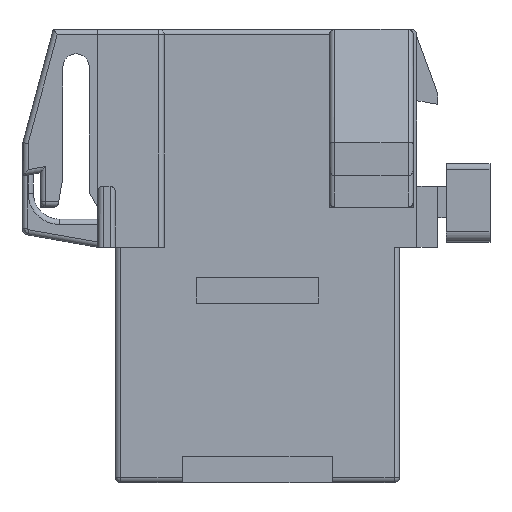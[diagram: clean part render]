
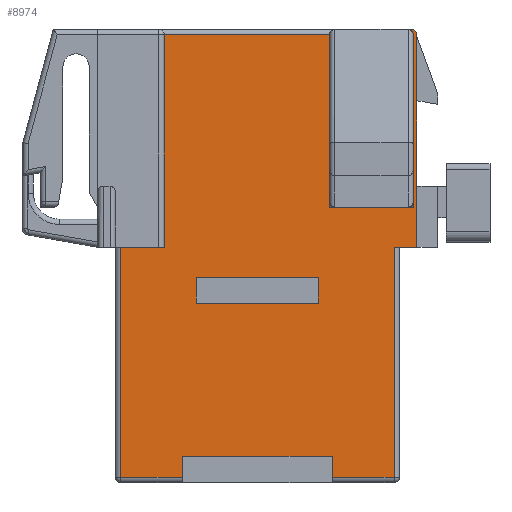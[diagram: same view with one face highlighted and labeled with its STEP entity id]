
A CAD part, front view. The second image highlights one B-rep face of the part: STEP entity #8974.
In plain terms, the highlighted planar face has unit normal (0, -1, 0).
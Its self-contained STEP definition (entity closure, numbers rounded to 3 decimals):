
#168=DIRECTION('',(-1.,0.,0.));
#169=VECTOR('',#168,0.2);
#170=CARTESIAN_POINT('',(8.85,-6.9,10.));
#171=LINE('',#170,#169);
#1286=DIRECTION('',(0.,0.,-1.));
#1287=VECTOR('',#1286,1.2);
#1288=CARTESIAN_POINT('',(4.3,-6.9,-14.5));
#1289=LINE('',#1288,#1287);
#1635=DIRECTION('',(1.,0.,0.));
#1636=VECTOR('',#1635,8.6);
#1637=CARTESIAN_POINT('',(-4.3,-6.9,-14.5));
#1638=LINE('',#1637,#1636);
#1639=DIRECTION('',(-1.,0.,0.));
#1640=VECTOR('',#1639,3.55);
#1641=CARTESIAN_POINT('',(-4.3,-6.9,-15.7));
#1642=LINE('',#1641,#1640);
#1643=DIRECTION('',(0.,0.,-1.));
#1644=VECTOR('',#1643,13.2);
#1645=CARTESIAN_POINT('',(-7.85,-6.9,-2.5));
#1646=LINE('',#1645,#1644);
#1647=DIRECTION('',(0.,0.,1.));
#1648=VECTOR('',#1647,12.2);
#1649=CARTESIAN_POINT('',(-5.35,-6.9,-2.5));
#1650=LINE('',#1649,#1648);
#1651=DIRECTION('',(1.,0.,0.));
#1652=VECTOR('',#1651,9.5);
#1653=CARTESIAN_POINT('',(-5.35,-6.9,9.7));
#1654=LINE('',#1653,#1652);
#1655=DIRECTION('',(0.,0.,-1.));
#1656=VECTOR('',#1655,9.9);
#1657=CARTESIAN_POINT('',(4.15,-6.9,9.7));
#1658=LINE('',#1657,#1656);
#1659=DIRECTION('',(-1.,0.,0.));
#1660=VECTOR('',#1659,4.8);
#1661=CARTESIAN_POINT('',(8.95,-6.9,-0.2));
#1662=LINE('',#1661,#1660);
#1663=DIRECTION('',(0.,0.,-1.));
#1664=VECTOR('',#1663,9.9);
#1665=CARTESIAN_POINT('',(8.95,-6.9,9.7));
#1666=LINE('',#1665,#1664);
#1667=CARTESIAN_POINT('',(8.85,-6.9,9.7));
#1668=DIRECTION('',(0.,1.,0.));
#1669=DIRECTION('',(0.,0.,1.));
#1670=AXIS2_PLACEMENT_3D('',#1667,#1668,#1669);
#1672=DIRECTION('',(0.,0.,1.));
#1673=VECTOR('',#1672,3.5);
#1674=CARTESIAN_POINT('',(9.15,-6.9,-2.5));
#1675=LINE('',#1674,#1673);
#1676=DIRECTION('',(0.,0.,-1.));
#1677=VECTOR('',#1676,13.2);
#1678=CARTESIAN_POINT('',(7.85,-6.9,-2.5));
#1679=LINE('',#1678,#1677);
#1680=DIRECTION('',(-1.,0.,0.));
#1681=VECTOR('',#1680,3.55);
#1682=CARTESIAN_POINT('',(7.85,-6.9,-15.7));
#1683=LINE('',#1682,#1681);
#1684=DIRECTION('',(-1.,0.,0.));
#1685=VECTOR('',#1684,7.);
#1686=CARTESIAN_POINT('',(3.5,-6.9,-5.7));
#1687=LINE('',#1686,#1685);
#1688=DIRECTION('',(0.,0.,-1.));
#1689=VECTOR('',#1688,1.45);
#1690=CARTESIAN_POINT('',(3.5,-6.9,-4.25));
#1691=LINE('',#1690,#1689);
#1692=DIRECTION('',(-1.,0.,0.));
#1693=VECTOR('',#1692,7.);
#1694=CARTESIAN_POINT('',(3.5,-6.9,-4.25));
#1695=LINE('',#1694,#1693);
#1696=DIRECTION('',(0.,0.,-1.));
#1697=VECTOR('',#1696,1.45);
#1698=CARTESIAN_POINT('',(-3.5,-6.9,-4.25));
#1699=LINE('',#1698,#1697);
#1700=DIRECTION('',(0.,0.,1.));
#1701=VECTOR('',#1700,1.2);
#1702=CARTESIAN_POINT('',(-4.3,-6.9,-15.7));
#1703=LINE('',#1702,#1701);
#2154=DIRECTION('',(-1.,0.,0.));
#2155=VECTOR('',#2154,2.5);
#2156=CARTESIAN_POINT('',(-5.35,-6.9,-2.5));
#2157=LINE('',#2156,#2155);
#2252=DIRECTION('',(1.,0.,0.));
#2253=VECTOR('',#2252,1.3);
#2254=CARTESIAN_POINT('',(7.85,-6.9,-2.5));
#2255=LINE('',#2254,#2253);
#3139=DIRECTION('',(0.,0.,1.));
#3140=VECTOR('',#3139,8.7);
#3141=CARTESIAN_POINT('',(9.15,-6.9,1.));
#3142=LINE('',#3141,#3140);
#3507=CARTESIAN_POINT('',(8.65,-6.9,9.7));
#3508=DIRECTION('',(0.,1.,0.));
#3509=DIRECTION('',(0.,0.,1.));
#3510=AXIS2_PLACEMENT_3D('',#3507,#3508,#3509);
#5698=CARTESIAN_POINT('',(8.95,-6.9,-0.2));
#5699=CARTESIAN_POINT('',(4.15,-6.9,-0.2));
#5700=VERTEX_POINT('',#5698);
#5701=VERTEX_POINT('',#5699);
#5762=CARTESIAN_POINT('',(9.15,-6.9,-2.5));
#5763=CARTESIAN_POINT('',(9.15,-6.9,1.));
#5764=VERTEX_POINT('',#5762);
#5765=VERTEX_POINT('',#5763);
#6290=CARTESIAN_POINT('',(8.95,-6.9,9.7));
#6292=VERTEX_POINT('',#6290);
#6294=CARTESIAN_POINT('',(8.65,-6.9,10.));
#6296=VERTEX_POINT('',#6294);
#6346=CARTESIAN_POINT('',(4.15,-6.9,9.7));
#6347=VERTEX_POINT('',#6346);
#6350=CARTESIAN_POINT('',(-5.35,-6.9,9.7));
#6351=VERTEX_POINT('',#6350);
#6358=CARTESIAN_POINT('',(8.85,-6.9,10.));
#6359=VERTEX_POINT('',#6358);
#6558=CARTESIAN_POINT('',(9.15,-6.9,9.7));
#6560=VERTEX_POINT('',#6558);
#6566=CARTESIAN_POINT('',(7.85,-6.9,-2.5));
#6567=CARTESIAN_POINT('',(7.85,-6.9,-15.7));
#6568=VERTEX_POINT('',#6566);
#6569=VERTEX_POINT('',#6567);
#6604=CARTESIAN_POINT('',(-7.85,-6.9,-2.5));
#6605=CARTESIAN_POINT('',(-7.85,-6.9,-15.7));
#6606=VERTEX_POINT('',#6604);
#6607=VERTEX_POINT('',#6605);
#6610=CARTESIAN_POINT('',(-5.35,-6.9,-2.5));
#6611=VERTEX_POINT('',#6610);
#6739=CARTESIAN_POINT('',(4.3,-6.9,-15.7));
#6741=VERTEX_POINT('',#6739);
#6743=CARTESIAN_POINT('',(-4.3,-6.9,-15.7));
#6745=VERTEX_POINT('',#6743);
#6778=CARTESIAN_POINT('',(-4.3,-6.9,-14.5));
#6779=CARTESIAN_POINT('',(4.3,-6.9,-14.5));
#6780=VERTEX_POINT('',#6778);
#6781=VERTEX_POINT('',#6779);
#6790=CARTESIAN_POINT('',(3.5,-6.9,-5.7));
#6791=CARTESIAN_POINT('',(-3.5,-6.9,-5.7));
#6792=VERTEX_POINT('',#6790);
#6793=VERTEX_POINT('',#6791);
#6794=CARTESIAN_POINT('',(-3.5,-6.9,-4.25));
#6795=VERTEX_POINT('',#6794);
#6796=CARTESIAN_POINT('',(3.5,-6.9,-4.25));
#6797=VERTEX_POINT('',#6796);
#8922=CARTESIAN_POINT('',(-5.35,-6.9,10.));
#8923=DIRECTION('',(0.,-1.,0.));
#8924=DIRECTION('',(1.,0.,0.));
#8925=AXIS2_PLACEMENT_3D('',#8922,#8923,#8924);
#8926=PLANE('',#8925);
#8927=ORIENTED_EDGE('',*,*,#8900,.F.);
#8929=ORIENTED_EDGE('',*,*,#8928,.F.);
#8931=ORIENTED_EDGE('',*,*,#8930,.T.);
#8933=ORIENTED_EDGE('',*,*,#8932,.F.);
#8935=ORIENTED_EDGE('',*,*,#8934,.F.);
#8937=ORIENTED_EDGE('',*,*,#8936,.T.);
#8939=ORIENTED_EDGE('',*,*,#8938,.T.);
#8941=ORIENTED_EDGE('',*,*,#8940,.T.);
#8943=ORIENTED_EDGE('',*,*,#8942,.F.);
#8945=ORIENTED_EDGE('',*,*,#8944,.F.);
#8947=ORIENTED_EDGE('',*,*,#8946,.F.);
#8948=ORIENTED_EDGE('',*,*,#7309,.F.);
#8950=ORIENTED_EDGE('',*,*,#8949,.T.);
#8952=ORIENTED_EDGE('',*,*,#8951,.F.);
#8954=ORIENTED_EDGE('',*,*,#8953,.F.);
#8956=ORIENTED_EDGE('',*,*,#8955,.F.);
#8958=ORIENTED_EDGE('',*,*,#8957,.T.);
#8960=ORIENTED_EDGE('',*,*,#8959,.T.);
#8961=ORIENTED_EDGE('',*,*,#8425,.F.);
#8962=EDGE_LOOP('',(#8927,#8929,#8931,#8933,#8935,#8937,#8939,#8941,#8943,#8945,
#8947,#8948,#8950,#8952,#8954,#8956,#8958,#8960,#8961));
#8963=FACE_OUTER_BOUND('',#8962,.F.);
#8965=ORIENTED_EDGE('',*,*,#8964,.F.);
#8967=ORIENTED_EDGE('',*,*,#8966,.F.);
#8969=ORIENTED_EDGE('',*,*,#8968,.T.);
#8971=ORIENTED_EDGE('',*,*,#8970,.T.);
#8972=EDGE_LOOP('',(#8965,#8967,#8969,#8971));
#8973=FACE_BOUND('',#8972,.F.);
#8974=ADVANCED_FACE('',(#8963,#8973),#8926,.T.);
#1671=CIRCLE('',#1670,0.3);
#3511=CIRCLE('',#3510,0.3);
#7309=EDGE_CURVE('',#6359,#6296,#171,.T.);
#8425=EDGE_CURVE('',#6781,#6741,#1289,.T.);
#8900=EDGE_CURVE('',#6780,#6781,#1638,.T.);
#8928=EDGE_CURVE('',#6745,#6780,#1703,.T.);
#8930=EDGE_CURVE('',#6745,#6607,#1642,.T.);
#8932=EDGE_CURVE('',#6606,#6607,#1646,.T.);
#8934=EDGE_CURVE('',#6611,#6606,#2157,.T.);
#8936=EDGE_CURVE('',#6611,#6351,#1650,.T.);
#8938=EDGE_CURVE('',#6351,#6347,#1654,.T.);
#8940=EDGE_CURVE('',#6347,#5701,#1658,.T.);
#8942=EDGE_CURVE('',#5700,#5701,#1662,.T.);
#8944=EDGE_CURVE('',#6292,#5700,#1666,.T.);
#8946=EDGE_CURVE('',#6296,#6292,#3511,.T.);
#8949=EDGE_CURVE('',#6359,#6560,#1671,.T.);
#8951=EDGE_CURVE('',#5765,#6560,#3142,.T.);
#8953=EDGE_CURVE('',#5764,#5765,#1675,.T.);
#8955=EDGE_CURVE('',#6568,#5764,#2255,.T.);
#8957=EDGE_CURVE('',#6568,#6569,#1679,.T.);
#8959=EDGE_CURVE('',#6569,#6741,#1683,.T.);
#8964=EDGE_CURVE('',#6792,#6793,#1687,.T.);
#8966=EDGE_CURVE('',#6797,#6792,#1691,.T.);
#8968=EDGE_CURVE('',#6797,#6795,#1695,.T.);
#8970=EDGE_CURVE('',#6795,#6793,#1699,.T.);
